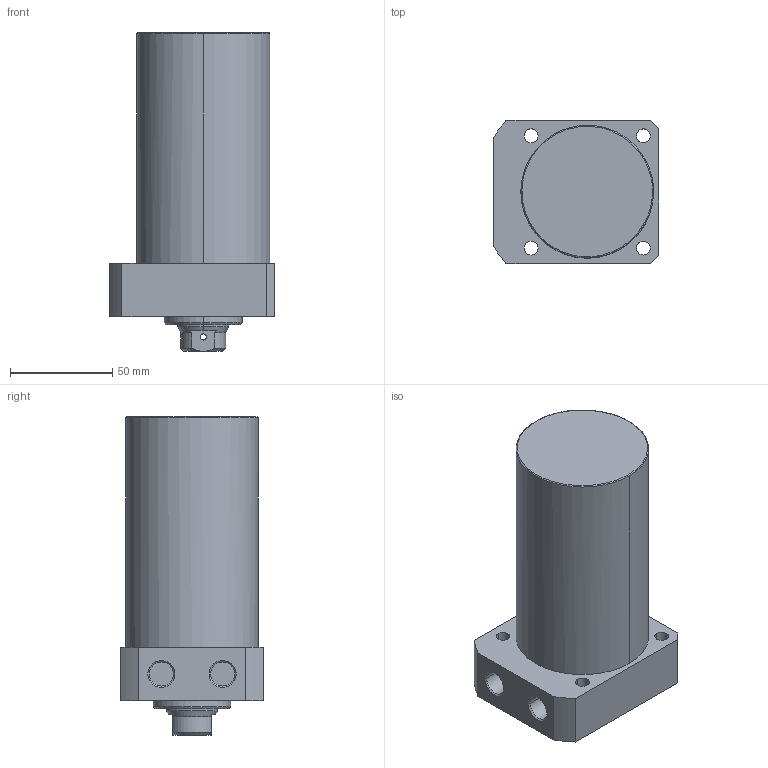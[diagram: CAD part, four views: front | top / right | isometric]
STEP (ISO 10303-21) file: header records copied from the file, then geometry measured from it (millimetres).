
FILE_DESCRIPTION((' '),'2;1');
FILE_NAME( 'TLLR-065CB-080.STEP.stp', '2025-10-24T16:34:56', (' '), ('--- Datakit www.datakit.com---'), ' Datakit CrossCadWare V2024.1 Dec 21 2023', 'Mastercam 2025', ' ');
FILE_SCHEMA(('AUTOMOTIVE_DESIGN { 1 0 10303 214 1 1 1 1 }'));
Length unit declared in the file: millimetre
Products named in the file (1): TLLR-065CB-080
Bounding box: 81 x 70 x 156 mm (x, y, z)
Volume: 518855.3 mm3; surface area: 47545.4 mm2
Topology: 1 solids, 1 shells, 67 faces, 197 edges, 136 vertices
Faces by surface type: cylinder 32, plane 19, cone 14, torus 2
Entity records: 3278 total; most frequent: CARTESIAN_POINT 1359, DIRECTION 426, ORIENTED_EDGE 390, EDGE_CURVE 195, AXIS2_PLACEMENT_3D 179, VERTEX_POINT 136, CIRCLE 111, EDGE_LOOP 85
